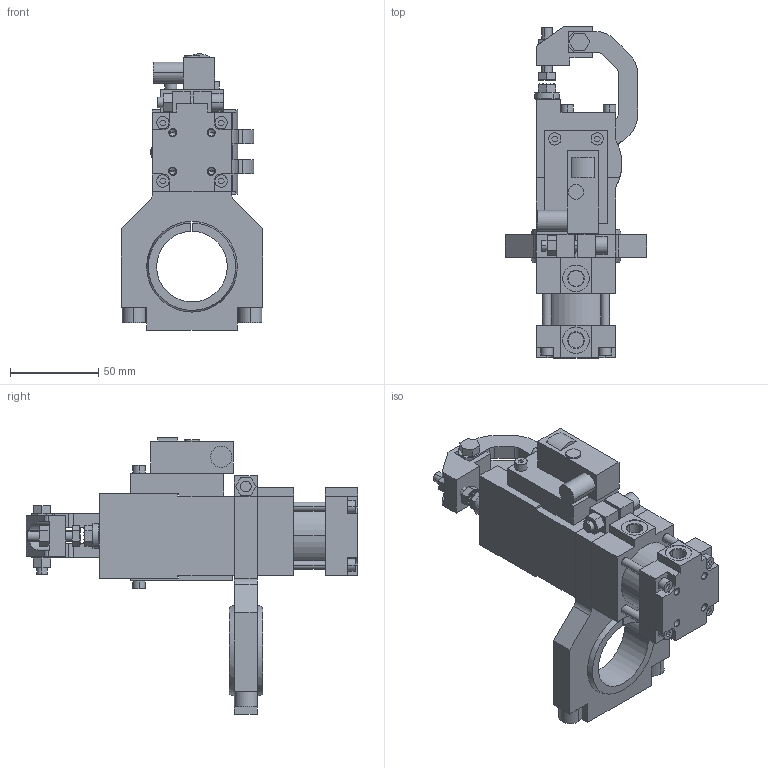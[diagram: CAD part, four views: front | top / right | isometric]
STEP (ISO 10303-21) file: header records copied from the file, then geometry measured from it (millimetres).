
FILE_DESCRIPTION (( 'STEP AP214' ), '1' );
FILE_NAME ('b32_a1s4_pla___a_b40.STEP', '2018-05-08T12:51:26', ( 'vepadmin' ), ( 'Hewlett-Packard Company' ), 'SwSTEP 2.0', 'SolidWorks 2018', '' );
FILE_SCHEMA (( 'AUTOMOTIVE_DESIGN' ));
Length unit declared in the file: millimetre
Products named in the file (13): blocchetto_p&f_90; scatola_micro_b32; riparo_micro_b32; leva_b32a; gruppo_montante_b32a; b32_a1s4_pla___a_b40; calotta_sferica_40_b32; attacco_b40_b32; tassello_a1_b32; piedino_zigrinato_M6x25; rondella_s4_b32a; piedino_zigrinato_M6x10; gruppo_cilindro_b32
Assembly tree (12 placements, depth 2):
  b32_a1s4_pla___a_b40
    gruppo_montante_b32a
    leva_b32a
    riparo_micro_b32
    scatola_micro_b32
    blocchetto_p&f_90
    gruppo_cilindro_b32
    piedino_zigrinato_M6x10
    rondella_s4_b32a
    piedino_zigrinato_M6x25
    tassello_a1_b32
    attacco_b40_b32
    calotta_sferica_40_b32
Bounding box: 80 x 188 x 156.6 mm (x, y, z)
Volume: 398792 mm3; surface area: 115078.2 mm2
Topology: 12 solids, 12 shells, 827 faces, 2016 edges, 1304 vertices
Faces by surface type: plane 565, cylinder 216, cone 42, sphere 4
Entity records: 24477 total; most frequent: CARTESIAN_POINT 4403, DIRECTION 4026, ORIENTED_EDGE 3982, EDGE_CURVE 1991, VECTOR 1458, LINE 1458, VERTEX_POINT 1297, AXIS2_PLACEMENT_3D 1284
